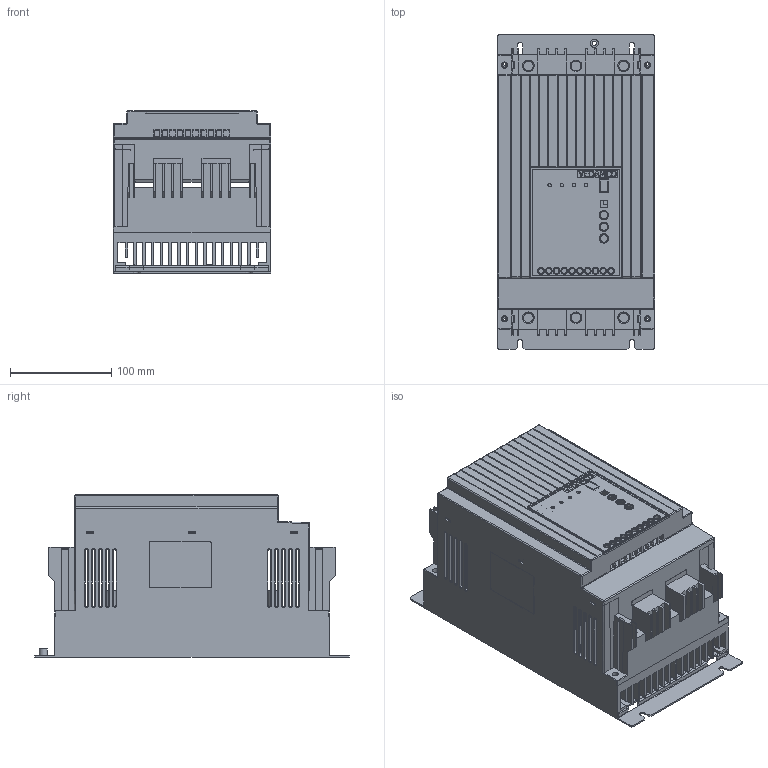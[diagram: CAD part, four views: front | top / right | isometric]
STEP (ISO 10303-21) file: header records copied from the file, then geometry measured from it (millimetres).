
FILE_DESCRIPTION(/* description */ (''),/* implementation_level */ '2;1');
FILE_NAME(/* name */ 'O:\БЭМ\Personal\Абрамов\010-18-2 РУНН Крюково\MCD\C4 31.10.2023.stp',/* time_stamp */ '2023-10-31T17:18:09+03:00',/* author */ ('a.abramov'),/* organization */ (''),/* preprocessor_version */ 'ST-DEVELOPER v18.1',/* originating_system */ 'Autodesk Inventor 2022',/* authorisation */ '');
FILE_SCHEMA (('AUTOMOTIVE_DESIGN { 1 0 10303 214 3 1 1 }'));
Products named in the file (1): C4
Bounding box: 155 x 310 x 159.7 mm (x, y, z)
Volume: 1172715.3 mm3; surface area: 771491.9 mm2
Topology: 1 solids, 19 shells, 2618 faces, 7266 edges, 4739 vertices
Faces by surface type: plane 2026, cylinder 322, cone 170, torus 44, bspline 42, sphere 14
Full cylindrical faces by diameter (mm): 2.5 x2, 2.6 x1, 3 x13, 3.6 x6, 4 x4, 4.2 x4, 4.3 x1, 4.5 x4, 6 x4, 8 x1, 9.5 x6
Entity records: 87134 total; most frequent: CARTESIAN_POINT 16647, ORIENTED_EDGE 14506, DIRECTION 13424, EDGE_CURVE 7253, LINE 5896, VECTOR 5896, VERTEX_POINT 4739, AXIS2_PLACEMENT_3D 3764
